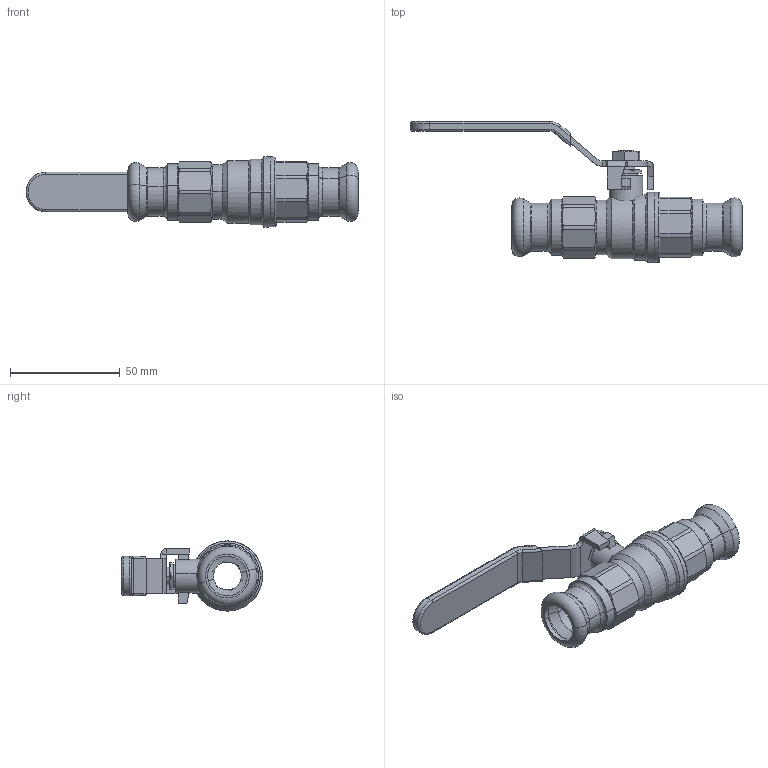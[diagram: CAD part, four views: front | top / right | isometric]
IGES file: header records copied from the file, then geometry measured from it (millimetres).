
Global section: file name: No Iges File Name specified; native system: AutoDesk Inventor R12.0; preprocessor: AutoDesk Inventor Iges Exporter R12.0; date: 20120118.092319; units: millimetre
Bounding box: 151.4 x 64.3 x 32 mm (x, y, z)
Volume: 43926.4 mm3; surface area: 29657.8 mm2
Topology: 1 solids, 11 shells, 566 faces, 1854 edges, 1388 vertices
Faces by surface type: plane 221, revolution 110, cylinder 81, cone 79, torus 42, bspline 29, sphere 4
